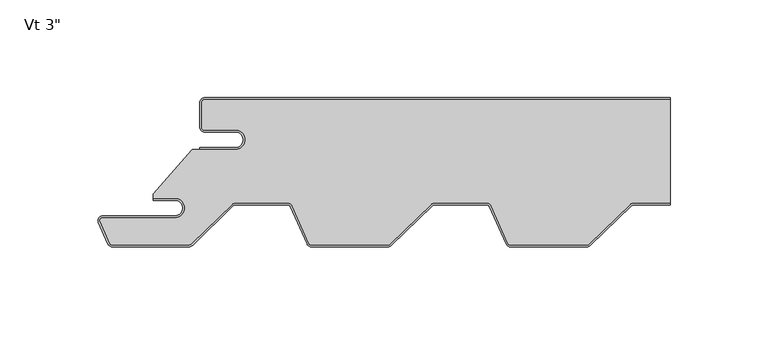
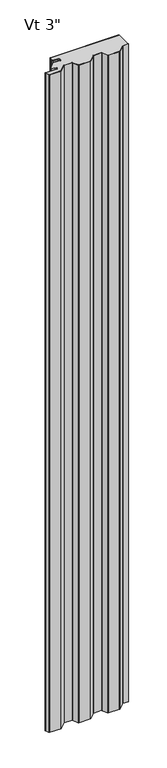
"""IFC4 building model written with IfcOpenShell, lengths in millimetres: plate geometry."""

from ifc_helpers import new_model, si_unit, point, frame_2d, origin, origin_with_axes, place, context, project, spatial, polyline, circle_curve, trimmed, segment, composite_curve, outline, extrude, source, transform, mapped, element, save


def plate_f83834ac(model_context):
    return source(origin(), model_context, "Body", "SweptSolid", [
        extrude(outline(composite_curve([segment(trimmed(circle_curve(frame_2d((-101.3437498, -21.4324412)), 4.96875), [point((-101.3437498, -26.4011912))], [point((-101.3437498, -16.4636912))], True, "CARTESIAN"), True, "CONTINUOUS"), segment(polyline([(-101.3437498, -16.4636912), (-117.2187498, -16.4636912)]), True, "CONTINUOUS"), segment(trimmed(circle_curve(frame_2d((-117.2187498, -15.0824412)), 1.38125), [point((-117.2187498, -16.4636912))], [point((-118.5999998, -15.0824412))], False, "CARTESIAN"), True, "CONTINUOUS"), segment(polyline([(-118.5999998, -15.0824412), (-118.5999998, -2.3824412)]), True, "CONTINUOUS"), segment(trimmed(circle_curve(frame_2d((-117.2187498, -2.3824412)), 1.38125), [point((-118.5999998, -2.3824412))], [point((-117.2187498, -1.0011912))], False, "CARTESIAN"), True, "CONTINUOUS"), segment(polyline([(-117.2187498, -1.0011912), (120.4062498, -1.0011912), (120.4062498, -53.6862), (101.8742004, -53.6862)]), True, "CONTINUOUS"), segment(trimmed(circle_curve(frame_2d((101.8742004, -56.2737)), 2.5875), [point((101.8742004, -53.6862))], [point((100.0745498, -54.4145567))], True, "CARTESIAN"), True, "CONTINUOUS"), segment(polyline([(100.0745498, -54.4145567), (79.0036464, -74.8111912)]), True, "CONTINUOUS"), segment(trimmed(circle_curve(frame_2d((78.0429633, -73.81875)), 1.38125), [point((79.0036464, -74.8111912))], [point((78.0429633, -75.2))], False, "CARTESIAN"), True, "CONTINUOUS"), segment(polyline([(78.0429633, -75.2), (38.9062559, -75.2)]), True, "CONTINUOUS"), segment(trimmed(circle_curve(frame_2d((38.9062559, -73.81875)), 1.38125), [point((38.9062559, -75.2))], [point((37.6432556, -74.3779296))], False, "CARTESIAN"), True, "CONTINUOUS"), segment(polyline([(37.6432556, -74.3779296), (29.1640307, -55.2261871)]), True, "CONTINUOUS"), segment(trimmed(circle_curve(frame_2d((26.7980483, -56.2737)), 2.5875), [point((29.1640307, -55.2261871))], [point((26.7980483, -53.6862))], True, "CARTESIAN"), True, "CONTINUOUS"), segment(polyline([(26.7980483, -53.6862), (0.2742004, -53.6862)]), True, "CONTINUOUS"), segment(trimmed(circle_curve(frame_2d((0.2742004, -56.2737)), 2.5875), [point((0.2742004, -53.6862))], [point((-1.5254502, -54.4145567))], True, "CARTESIAN"), True, "CONTINUOUS"), segment(polyline([(-1.5254502, -54.4145567), (-22.5963536, -74.8111912)]), True, "CONTINUOUS"), segment(trimmed(circle_curve(frame_2d((-23.5570367, -73.81875)), 1.38125), [point((-22.5963536, -74.8111912))], [point((-23.5570367, -75.2))], False, "CARTESIAN"), True, "CONTINUOUS"), segment(polyline([(-23.5570367, -75.2), (-62.6937441, -75.2)]), True, "CONTINUOUS"), segment(trimmed(circle_curve(frame_2d((-62.6937441, -73.81875)), 1.38125), [point((-62.6937441, -75.2))], [point((-63.9567444, -74.3779296))], False, "CARTESIAN"), True, "CONTINUOUS"), segment(polyline([(-63.9567444, -74.3779296), (-72.4359693, -55.2261871)]), True, "CONTINUOUS"), segment(trimmed(circle_curve(frame_2d((-74.8019517, -56.2737)), 2.5875), [point((-72.4359693, -55.2261871))], [point((-74.8019517, -53.6862))], True, "CARTESIAN"), True, "CONTINUOUS"), segment(polyline([(-74.8019517, -53.6862), (-101.3257996, -53.6862)]), True, "CONTINUOUS"), segment(trimmed(circle_curve(frame_2d((-101.3257996, -56.2737)), 2.5875), [point((-101.3257996, -53.6862))], [point((-103.1254502, -54.4145567))], True, "CARTESIAN"), True, "CONTINUOUS"), segment(polyline([(-103.1254502, -54.4145567), (-123.987693, -74.6092077)]), True, "CONTINUOUS"), segment(trimmed(circle_curve(frame_2d((-125.4474444, -73.1012)), 2.0988), [point((-123.987693, -74.6092077))], [point((-125.4474444, -75.2))], False, "CARTESIAN"), True, "CONTINUOUS"), segment(polyline([(-125.4474444, -75.2), (-164.2937441, -75.2)]), True, "CONTINUOUS"), segment(trimmed(circle_curve(frame_2d((-164.2937441, -73.81875)), 1.38125), [point((-164.2937441, -75.2))], [point((-165.5567444, -74.3779296))], False, "CARTESIAN"), True, "CONTINUOUS"), segment(polyline([(-165.5567444, -74.3779296), (-170.4761551, -63.2666208)]), True, "CONTINUOUS"), segment(trimmed(circle_curve(frame_2d((-169.2131548, -62.7074412)), 1.38125), [point((-170.4761551, -63.2666208))], [point((-169.2131548, -61.3261912))], False, "CARTESIAN"), True, "CONTINUOUS"), segment(polyline([(-169.2131548, -61.3261912), (-132.2999998, -61.3261912)]), True, "CONTINUOUS"), segment(trimmed(circle_curve(frame_2d((-132.2999998, -56.3574412)), 4.96875), [point((-132.2999998, -61.3261912))], [point((-132.2999998, -51.3886912))], True, "CARTESIAN"), True, "CONTINUOUS"), segment(polyline([(-132.2999998, -51.3886912), (-143.4124998, -51.3886912), (-143.4124998, -49.233822), (-123.591411, -26.4011912), (-101.3437498, -26.4011912)]), True, "CONTINUOUS")], self_intersect=False)), origin_with_axes(), (0.0, 0.0, 1.0), 2400.0),
        extrude(outline(composite_curve([segment(polyline([(-119.5999998, -25.4), (-101.3437498, -25.4)]), True, "CONTINUOUS"), segment(trimmed(circle_curve(frame_2d((-101.3437498, -21.43125)), 3.96875), [point((-101.3437498, -25.4))], [point((-101.3437498, -17.4625))], True, "CARTESIAN"), True, "CONTINUOUS"), segment(polyline([(-101.3437498, -17.4625), (-117.2187498, -17.4625)]), True, "CONTINUOUS"), segment(trimmed(circle_curve(frame_2d((-117.2187498, -15.08125)), 2.38125), [point((-117.2187498, -17.4625))], [point((-119.5999998, -15.08125))], False, "CARTESIAN"), True, "CONTINUOUS"), segment(polyline([(-119.5999998, -15.08125), (-119.5999998, -2.38125)]), True, "CONTINUOUS"), segment(trimmed(circle_curve(frame_2d((-117.2187498, -2.38125)), 2.38125), [point((-119.5999998, -2.38125))], [point((-117.2187498, 0.0))], False, "CARTESIAN"), True, "CONTINUOUS"), segment(polyline([(-117.2187498, 0.0), (120.4062498, 0.0), (120.4062498, -1.0), (-117.2187498, -1.0)]), True, "CONTINUOUS"), segment(trimmed(circle_curve(frame_2d((-117.2187498, -2.38125)), 1.38125), [point((-117.2187498, -1.0))], [point((-118.5999998, -2.38125))], True, "CARTESIAN"), True, "CONTINUOUS"), segment(polyline([(-118.5999998, -2.38125), (-118.5999998, -15.08125)]), True, "CONTINUOUS"), segment(trimmed(circle_curve(frame_2d((-117.2187498, -15.08125)), 1.38125), [point((-118.5999998, -15.08125))], [point((-117.2187498, -16.4625))], True, "CARTESIAN"), True, "CONTINUOUS"), segment(polyline([(-117.2187498, -16.4625), (-101.3437498, -16.4625)]), True, "CONTINUOUS"), segment(trimmed(circle_curve(frame_2d((-101.3437498, -21.43125)), 4.96875), [point((-101.3437498, -16.4625))], [point((-101.3437498, -26.4))], False, "CARTESIAN"), True, "CONTINUOUS"), segment(polyline([(-101.3437498, -26.4), (-119.5999998, -26.4), (-119.5999998, -25.4)]), True, "CONTINUOUS")], self_intersect=False)), origin_with_axes(), (0.0, 0.0, 1.0), 2400.0),
        extrude(outline(composite_curve([segment(trimmed(circle_curve(frame_2d((-132.2999998, -56.3574412)), 3.96875), [point((-132.2999998, -60.3261912))], [point((-132.2999998, -52.3886912))], True, "CARTESIAN"), True, "CONTINUOUS"), segment(polyline([(-132.2999998, -52.3886912), (-143.4124998, -52.3886912), (-143.4124998, -51.3886912), (-132.2999998, -51.3886912)]), True, "CONTINUOUS"), segment(trimmed(circle_curve(frame_2d((-132.2999998, -56.3574412)), 4.96875), [point((-132.2999998, -51.3886912))], [point((-132.2999998, -61.3261912))], False, "CARTESIAN"), True, "CONTINUOUS"), segment(polyline([(-132.2999998, -61.3261912), (-169.2131548, -61.3261912)]), True, "CONTINUOUS"), segment(trimmed(circle_curve(frame_2d((-169.2131548, -62.7074412)), 1.38125), [point((-169.2131548, -61.3261912))], [point((-170.4761551, -63.2666208))], True, "CARTESIAN"), True, "CONTINUOUS"), segment(polyline([(-170.4761551, -63.2666208), (-165.5567444, -74.3779296)]), True, "CONTINUOUS"), segment(trimmed(circle_curve(frame_2d((-164.2937441, -73.81875)), 1.38125), [point((-165.5567444, -74.3779296))], [point((-164.2937441, -75.2))], True, "CARTESIAN"), True, "CONTINUOUS"), segment(polyline([(-164.2937441, -75.2), (-125.4474444, -75.2)]), True, "CONTINUOUS"), segment(trimmed(circle_curve(frame_2d((-125.4474444, -73.1012)), 2.0988), [point((-125.4474444, -75.2))], [point((-123.987693, -74.6092077))], True, "CARTESIAN"), True, "CONTINUOUS"), segment(polyline([(-123.987693, -74.6092077), (-103.1254502, -54.4145567)]), True, "CONTINUOUS"), segment(trimmed(circle_curve(frame_2d((-101.3257996, -56.2737)), 2.5875), [point((-103.1254502, -54.4145567))], [point((-101.3257996, -53.6862))], False, "CARTESIAN"), True, "CONTINUOUS"), segment(polyline([(-101.3257996, -53.6862), (-74.8019517, -53.6862)]), True, "CONTINUOUS"), segment(trimmed(circle_curve(frame_2d((-74.8019517, -56.2737)), 2.5875), [point((-74.8019517, -53.6862))], [point((-72.4359693, -55.2261871))], False, "CARTESIAN"), True, "CONTINUOUS"), segment(polyline([(-72.4359693, -55.2261871), (-63.9567444, -74.3779296)]), True, "CONTINUOUS"), segment(trimmed(circle_curve(frame_2d((-62.6937441, -73.81875)), 1.38125), [point((-63.9567444, -74.3779296))], [point((-62.6937441, -75.2))], True, "CARTESIAN"), True, "CONTINUOUS"), segment(polyline([(-62.6937441, -75.2), (-23.5570367, -75.2)]), True, "CONTINUOUS"), segment(trimmed(circle_curve(frame_2d((-23.5570367, -73.81875)), 1.38125), [point((-23.5570367, -75.2))], [point((-22.5963536, -74.8111912))], True, "CARTESIAN"), True, "CONTINUOUS"), segment(polyline([(-22.5963536, -74.8111912), (-1.5254502, -54.4145567)]), True, "CONTINUOUS"), segment(trimmed(circle_curve(frame_2d((0.2742004, -56.2737)), 2.5875), [point((-1.5254502, -54.4145567))], [point((0.2742004, -53.6862))], False, "CARTESIAN"), True, "CONTINUOUS"), segment(polyline([(0.2742004, -53.6862), (26.7980483, -53.6862)]), True, "CONTINUOUS"), segment(trimmed(circle_curve(frame_2d((26.7980483, -56.2737)), 2.5875), [point((26.7980483, -53.6862))], [point((29.1640307, -55.2261871))], False, "CARTESIAN"), True, "CONTINUOUS"), segment(polyline([(29.1640307, -55.2261871), (37.6432556, -74.3779296)]), True, "CONTINUOUS"), segment(trimmed(circle_curve(frame_2d((38.9062559, -73.81875)), 1.38125), [point((37.6432556, -74.3779296))], [point((38.9062559, -75.2))], True, "CARTESIAN"), True, "CONTINUOUS"), segment(polyline([(38.9062559, -75.2), (78.0429633, -75.2)]), True, "CONTINUOUS"), segment(trimmed(circle_curve(frame_2d((78.0429633, -73.81875)), 1.38125), [point((78.0429633, -75.2))], [point((79.0036464, -74.8111912))], True, "CARTESIAN"), True, "CONTINUOUS"), segment(polyline([(79.0036464, -74.8111912), (100.0745498, -54.4145567)]), True, "CONTINUOUS"), segment(trimmed(circle_curve(frame_2d((101.8742004, -56.2737)), 2.5875), [point((100.0745498, -54.4145567))], [point((101.8742004, -53.6862))], False, "CARTESIAN"), True, "CONTINUOUS"), segment(polyline([(101.8742004, -53.6862), (120.4062498, -53.6862), (120.4062498, -54.6862), (101.8742004, -54.6862)]), True, "CONTINUOUS"), segment(trimmed(circle_curve(frame_2d((101.8742004, -56.2737)), 1.5875), [point((101.8742004, -54.6862))], [point((100.7700669, -55.1330662))], True, "CARTESIAN"), True, "CONTINUOUS"), segment(polyline([(100.7700669, -55.1330662), (79.6991635, -75.5297007)]), True, "CONTINUOUS"), segment(trimmed(circle_curve(frame_2d((78.0429633, -73.81875)), 2.38125), [point((79.6991635, -75.5297007))], [point((78.0429633, -76.2))], False, "CARTESIAN"), True, "CONTINUOUS"), segment(polyline([(78.0429633, -76.2), (38.9062559, -76.2)]), True, "CONTINUOUS"), segment(trimmed(circle_curve(frame_2d((38.9062559, -73.81875)), 2.38125), [point((38.9062559, -76.2))], [point((36.7288662, -74.7827655))], False, "CARTESIAN"), True, "CONTINUOUS"), segment(polyline([(36.7288662, -74.7827655), (28.2496414, -55.631023)]), True, "CONTINUOUS"), segment(trimmed(circle_curve(frame_2d((26.7980483, -56.2737)), 1.5875), [point((28.2496414, -55.631023))], [point((26.7980483, -54.6862))], True, "CARTESIAN"), True, "CONTINUOUS"), segment(polyline([(26.7980483, -54.6862), (0.2742004, -54.6862)]), True, "CONTINUOUS"), segment(trimmed(circle_curve(frame_2d((0.2742004, -56.2737)), 1.5875), [point((0.2742004, -54.6862))], [point((-0.8299331, -55.1330662))], True, "CARTESIAN"), True, "CONTINUOUS"), segment(polyline([(-0.8299331, -55.1330662), (-21.9008365, -75.5297007)]), True, "CONTINUOUS"), segment(trimmed(circle_curve(frame_2d((-23.5570367, -73.81875)), 2.38125), [point((-21.9008365, -75.5297007))], [point((-23.5570367, -76.2))], False, "CARTESIAN"), True, "CONTINUOUS"), segment(polyline([(-23.5570367, -76.2), (-62.6937441, -76.2)]), True, "CONTINUOUS"), segment(trimmed(circle_curve(frame_2d((-62.6937441, -73.81875)), 2.38125), [point((-62.6937441, -76.2))], [point((-64.8711338, -74.7827655))], False, "CARTESIAN"), True, "CONTINUOUS"), segment(polyline([(-64.8711338, -74.7827655), (-73.3503586, -55.631023)]), True, "CONTINUOUS"), segment(trimmed(circle_curve(frame_2d((-74.8019517, -56.2737)), 1.5875), [point((-73.3503586, -55.631023))], [point((-74.8019517, -54.6862))], True, "CARTESIAN"), True, "CONTINUOUS"), segment(polyline([(-74.8019517, -54.6862), (-101.3257996, -54.6862)]), True, "CONTINUOUS"), segment(trimmed(circle_curve(frame_2d((-101.3257996, -56.2737)), 1.5875), [point((-101.3257996, -54.6862))], [point((-102.4299331, -55.1330662))], True, "CARTESIAN"), True, "CONTINUOUS"), segment(polyline([(-102.4299331, -55.1330662), (-123.2921758, -75.3277172)]), True, "CONTINUOUS"), segment(trimmed(circle_curve(frame_2d((-125.4474444, -73.1012)), 3.0988), [point((-123.2921758, -75.3277172))], [point((-125.4474444, -76.2))], False, "CARTESIAN"), True, "CONTINUOUS"), segment(polyline([(-125.4474444, -76.2), (-164.2937441, -76.2)]), True, "CONTINUOUS"), segment(trimmed(circle_curve(frame_2d((-164.2937441, -73.81875)), 2.38125), [point((-164.2937441, -76.2))], [point((-166.4711338, -74.7827655))], False, "CARTESIAN"), True, "CONTINUOUS"), segment(polyline([(-166.4711338, -74.7827655), (-171.3905444, -63.6714567)]), True, "CONTINUOUS"), segment(trimmed(circle_curve(frame_2d((-169.2131548, -62.7074412)), 2.38125), [point((-171.3905444, -63.6714567))], [point((-169.2131548, -60.3261912))], False, "CARTESIAN"), True, "CONTINUOUS"), segment(polyline([(-169.2131548, -60.3261912), (-132.2999998, -60.3261912)]), True, "CONTINUOUS")], self_intersect=False)), origin_with_axes(), (0.0, 0.0, 1.0), 2400.0),
    ])


if __name__ == "__main__":
    model = new_model("IFC4")
    model_context = context("Model", 3, world=origin())
    ifc_project = project(units=[si_unit("LENGTHUNIT", "METRE", prefix="MILLI")], contexts=[model_context])
    site = spatial("IfcSite", under=ifc_project)
    building = spatial("IfcBuilding", under=site)
    placement = place(None, origin())
    plate_shape = plate_f83834ac(model_context)
    element("IfcPlate", 1, ObjectType="KIP-16-DWR-R19-CP-Vt-S : Vt 3\"", at=placement, inside=building, context=model_context, shape_type="MappedRepresentation", body=[
        mapped(plate_shape, transform((0.0, 0.0, 0.0), x_axis=(1.0, 0.0, 0.0), y_axis=(0.0, 1.0, 0.0), z_axis=(0.0, 0.0, 1.0))),
    ])
    save(model, "model.ifc")
